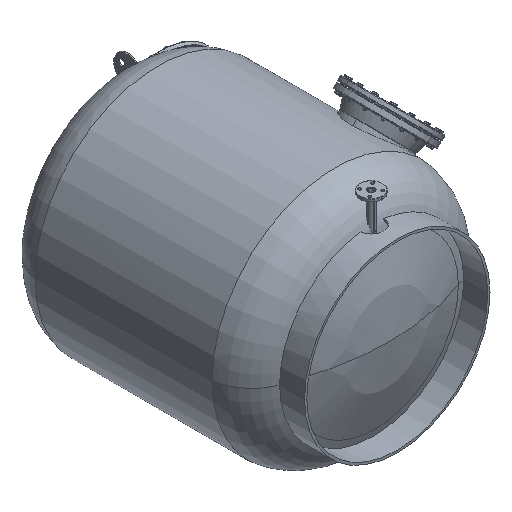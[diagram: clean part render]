
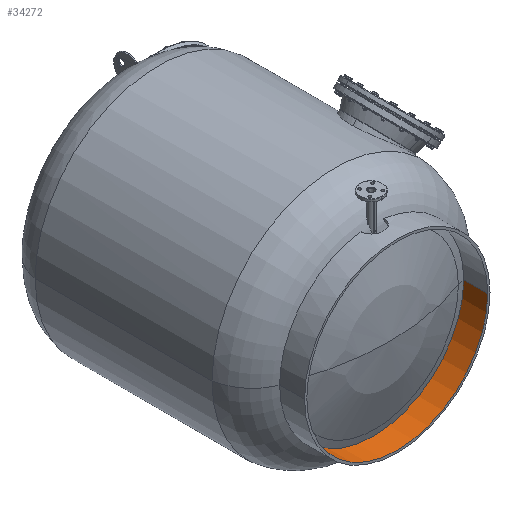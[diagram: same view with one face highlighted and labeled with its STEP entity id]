
A CAD part, isometric view. The second image highlights one B-rep face of the part: STEP entity #34272.
In plain terms, the highlighted cylindrical face has radius 600 mm (diameter 1200 mm), a partial arc.
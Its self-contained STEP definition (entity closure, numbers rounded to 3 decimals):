
#1967 = CARTESIAN_POINT ( 'NONE',  ( 615., 165.5, -615.057 ) ) ;
#4490 = CARTESIAN_POINT ( 'NONE',  ( 615., 6.2, -615.057 ) ) ;
#10245 = LINE ( 'NONE', #55622, #84235 ) ;
#11647 = CARTESIAN_POINT ( 'NONE',  ( 1215., 6.2, -615.057 ) ) ;
#12036 = VERTEX_POINT ( 'NONE', #11647 ) ;
#13463 = CARTESIAN_POINT ( 'NONE',  ( 15., 165.5, -615.057 ) ) ;
#13587 = ORIENTED_EDGE ( 'NONE', *, *, #55562, .F. ) ;
#14029 = LINE ( 'NONE', #13463, #57789 ) ;
#16475 = CIRCLE ( 'NONE', #109112, 600. ) ;
#19352 = AXIS2_PLACEMENT_3D ( 'NONE', #4490, #39084, #56639 ) ;
#23734 = AXIS2_PLACEMENT_3D ( 'NONE', #77905, #51759, #87053 ) ;
#26215 = CYLINDRICAL_SURFACE ( 'NONE', #23734, 600. ) ;
#31690 = EDGE_CURVE ( 'NONE', #111692, #62856, #14029, .T. ) ;
#32217 = CARTESIAN_POINT ( 'NONE',  ( 1215., 165.5, -615.057 ) ) ;
#34272 = ADVANCED_FACE ( 'NONE', ( #52311 ), #26215, .F. ) ;
#36531 = DIRECTION ( 'NONE',  ( 0., 1., 0. ) ) ;
#37645 = ORIENTED_EDGE ( 'NONE', *, *, #31690, .T. ) ;
#39084 = DIRECTION ( 'NONE',  ( 0., 1., 0. ) ) ;
#41162 = CIRCLE ( 'NONE', #19352, 600. ) ;
#48062 = CARTESIAN_POINT ( 'NONE',  ( 15., 6.2, -615.057 ) ) ;
#51759 = DIRECTION ( 'NONE',  ( 0., -1., 0. ) ) ;
#52311 = FACE_OUTER_BOUND ( 'NONE', #85755, .T. ) ;
#55562 = EDGE_CURVE ( 'NONE', #12036, #62856, #41162, .T. ) ;
#55622 = CARTESIAN_POINT ( 'NONE',  ( 1215., 165.5, -615.057 ) ) ;
#56639 = DIRECTION ( 'NONE',  ( 1., 0., 0. ) ) ;
#57789 = VECTOR ( 'NONE', #83375, 1000. ) ;
#59629 = EDGE_CURVE ( 'NONE', #61562, #111692, #16475, .T. ) ;
#61562 = VERTEX_POINT ( 'NONE', #32217 ) ;
#62110 = ORIENTED_EDGE ( 'NONE', *, *, #92267, .F. ) ;
#62856 = VERTEX_POINT ( 'NONE', #48062 ) ;
#66264 = ORIENTED_EDGE ( 'NONE', *, *, #59629, .T. ) ;
#77905 = CARTESIAN_POINT ( 'NONE',  ( 615., 0., -615.057 ) ) ;
#83375 = DIRECTION ( 'NONE',  ( 0., -1., 0. ) ) ;
#84235 = VECTOR ( 'NONE', #106317, 1000. ) ;
#85755 = EDGE_LOOP ( 'NONE', ( #66264, #37645, #13587, #62110 ) ) ;
#87053 = DIRECTION ( 'NONE',  ( 1., 0., 0. ) ) ;
#92267 = EDGE_CURVE ( 'NONE', #61562, #12036, #10245, .T. ) ;
#105909 = DIRECTION ( 'NONE',  ( 1., 0., 0. ) ) ;
#106317 = DIRECTION ( 'NONE',  ( 0., -1., 0. ) ) ;
#109112 = AXIS2_PLACEMENT_3D ( 'NONE', #1967, #36531, #105909 ) ;
#111692 = VERTEX_POINT ( 'NONE', #112441 ) ;
#112441 = CARTESIAN_POINT ( 'NONE',  ( 15., 165.5, -615.057 ) ) ;
